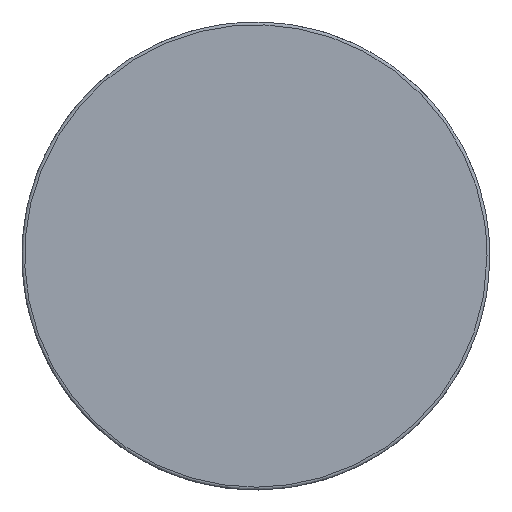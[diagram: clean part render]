
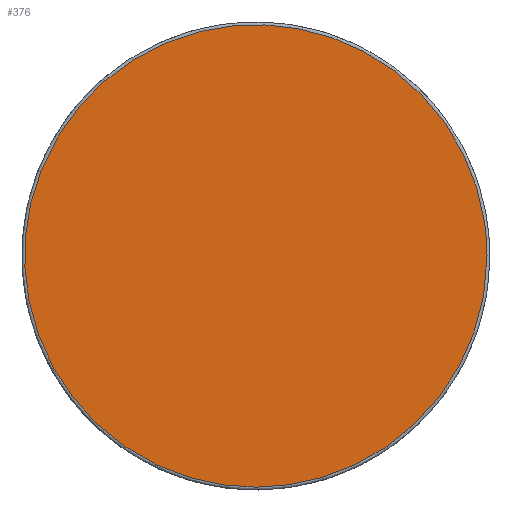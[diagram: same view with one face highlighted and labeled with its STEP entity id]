
A CAD part, top view. The second image highlights one B-rep face of the part: STEP entity #376.
In plain terms, the highlighted planar face has unit normal (0, 0, 1).
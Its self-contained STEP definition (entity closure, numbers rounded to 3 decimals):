
#376=ADVANCED_FACE('',(#693),#4242,.T.);
#693=FACE_OUTER_BOUND('',#1046,.T.);
#1046=EDGE_LOOP('',(#2374));
#2374=ORIENTED_EDGE('',*,*,#3047,.F.);
#3047=EDGE_CURVE('',#4112,#4112,#3714,.T.);
#3714=(
BOUNDED_CURVE()
B_SPLINE_CURVE(2,(#12649,#12650,#12651,#12652,#12653,#12654,#12655,#12656,
#12657),.UNSPECIFIED.,.T.,.F.)
B_SPLINE_CURVE_WITH_KNOTS((3,2,2,2,3),(0.,387.984,775.968,
1163.953,1551.937),.UNSPECIFIED.)
CURVE()
GEOMETRIC_REPRESENTATION_ITEM()
RATIONAL_B_SPLINE_CURVE((1.,0.707,1.,0.707,1.,0.707,
1.,0.707,1.))
REPRESENTATION_ITEM('')
);
#4112=VERTEX_POINT('',#12633);
#4242=PLANE('',#4547);
#4547=AXIS2_PLACEMENT_3D('',#12575,#4648,$);
#4648=DIRECTION('',(0.,0.,1.));
#12575=CARTESIAN_POINT('',(-312.5,312.5,400.));
#12633=CARTESIAN_POINT('',(247.,0.,400.));
#12649=CARTESIAN_POINT('',(247.,0.,400.));
#12650=CARTESIAN_POINT('',(247.,-247.,400.));
#12651=CARTESIAN_POINT('',(0.,-247.,400.));
#12652=CARTESIAN_POINT('',(-247.,-247.,400.));
#12653=CARTESIAN_POINT('',(-247.,0.,400.));
#12654=CARTESIAN_POINT('',(-247.,247.,400.));
#12655=CARTESIAN_POINT('',(0.,247.,400.));
#12656=CARTESIAN_POINT('',(247.,247.,400.));
#12657=CARTESIAN_POINT('',(247.,0.,400.));
